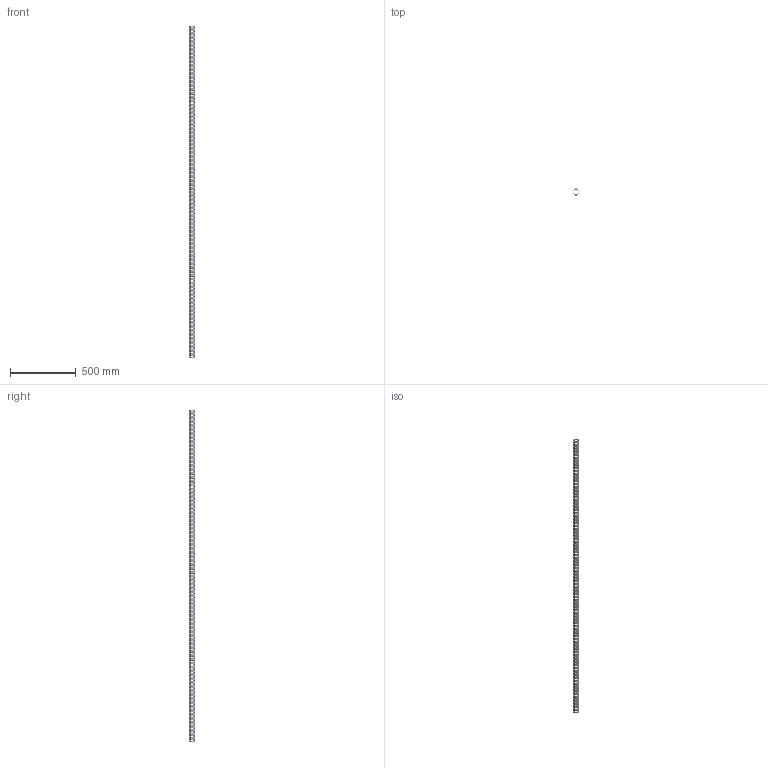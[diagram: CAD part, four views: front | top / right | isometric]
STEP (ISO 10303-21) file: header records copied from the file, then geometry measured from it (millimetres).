
FILE_DESCRIPTION(('CATIA V5 STEP Exchange'),'2;1');
FILE_NAME('U:\Room\唐宝山\EGT002\46-01-010313-01-EGT002-2518.stp','2021-08-24T02:11:35+00:00',('none'),('none'),'CATIA Version 5 Release 21 GA (IN-10)','CATIA V5 STEP AP203','none');
FILE_SCHEMA(('CONFIG_CONTROL_DESIGN'));
Products named in the file (1): 46-01-010313-01-EGT002-2518
Bounding box: 50 x 50 x 2518 mm (x, y, z)
Volume: 1794126.8 mm3; surface area: 864503.6 mm2
Topology: 1 solids, 1 shells, 3444 faces, 9486 edges, 5876 vertices
Faces by surface type: cone 2016, cylinder 1402, plane 26
Entity records: 140428 total; most frequent: CARTESIAN_POINT 56963, ORIENTED_EDGE 18972, DIRECTION 13454, EDGE_CURVE 9486, AXIS2_PLACEMENT_3D 6353, VERTEX_POINT 5876, EDGE_LOOP 4622, VECTOR 3658
